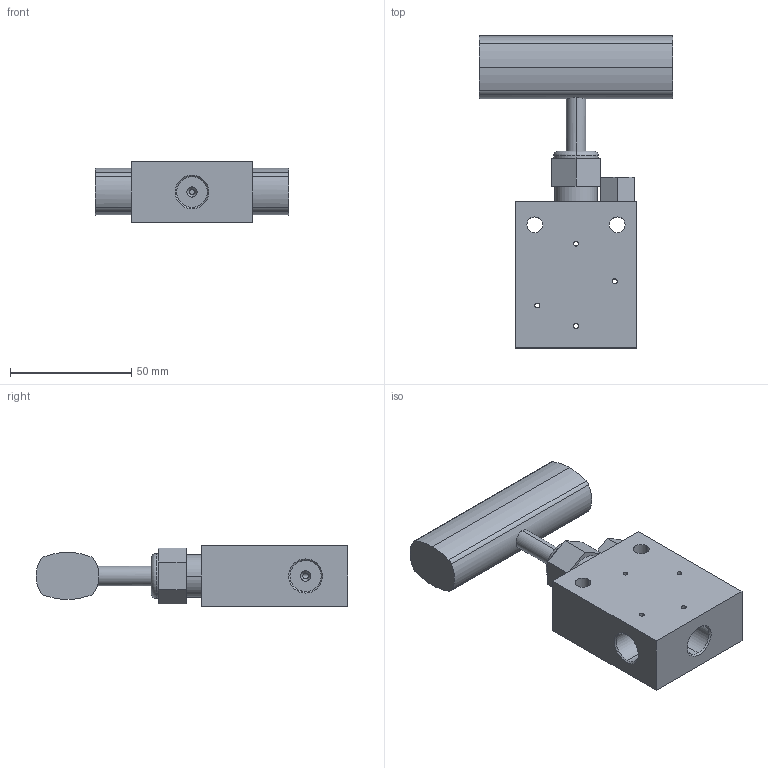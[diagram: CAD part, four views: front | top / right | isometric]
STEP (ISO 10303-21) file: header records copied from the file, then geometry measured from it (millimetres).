
FILE_DESCRIPTION (( 'STEP AP203' ), '1' );
FILE_NAME ('NV60VS04-T-00-00.STEP', '2023-02-21T07:37:16', ( 'USER' ), ( '' ), 'SwSTEP 2.0', 'SolidWorks 2020', '' );
FILE_SCHEMA (( 'CONFIG_CONTROL_DESIGN' ));
Length unit declared in the file: millimetre
Products named in the file (1): NV60VS04-T-00-00
Bounding box: 80 x 128.7 x 25 mm (x, y, z)
Volume: 112422.4 mm3; surface area: 23888.6 mm2
Topology: 1 solids, 1 shells, 105 faces, 265 edges, 166 vertices
Faces by surface type: cylinder 54, plane 31, cone 18, torus 2
Entity records: 3690 total; most frequent: CARTESIAN_POINT 999, DIRECTION 559, ORIENTED_EDGE 530, EDGE_CURVE 265, AXIS2_PLACEMENT_3D 214, VERTEX_POINT 166, EDGE_LOOP 135, LINE 131
